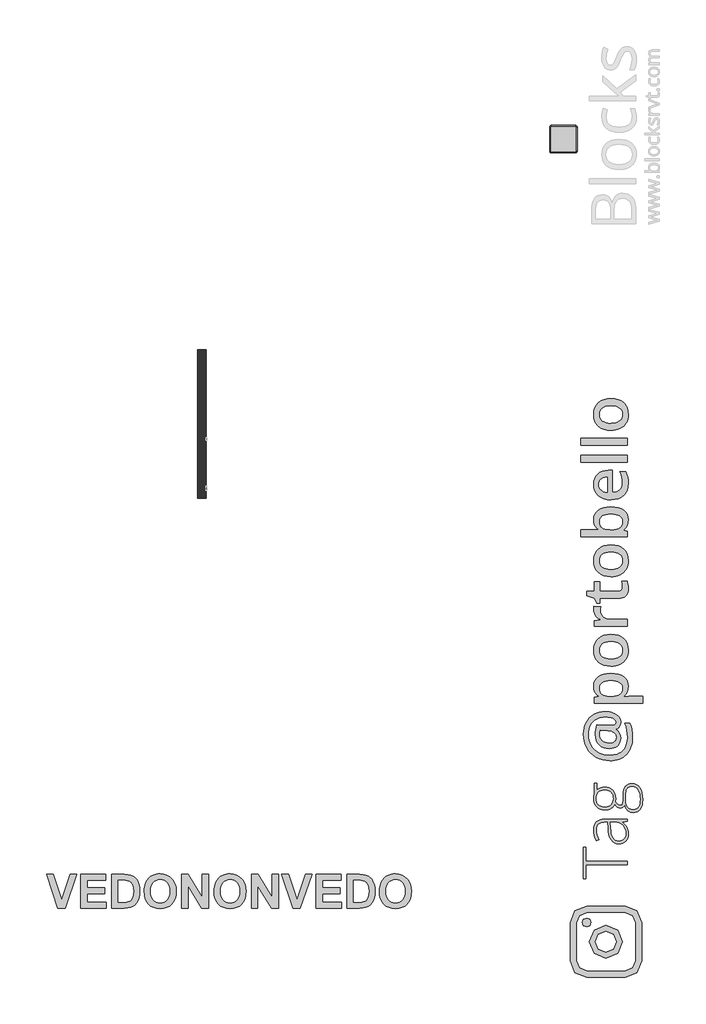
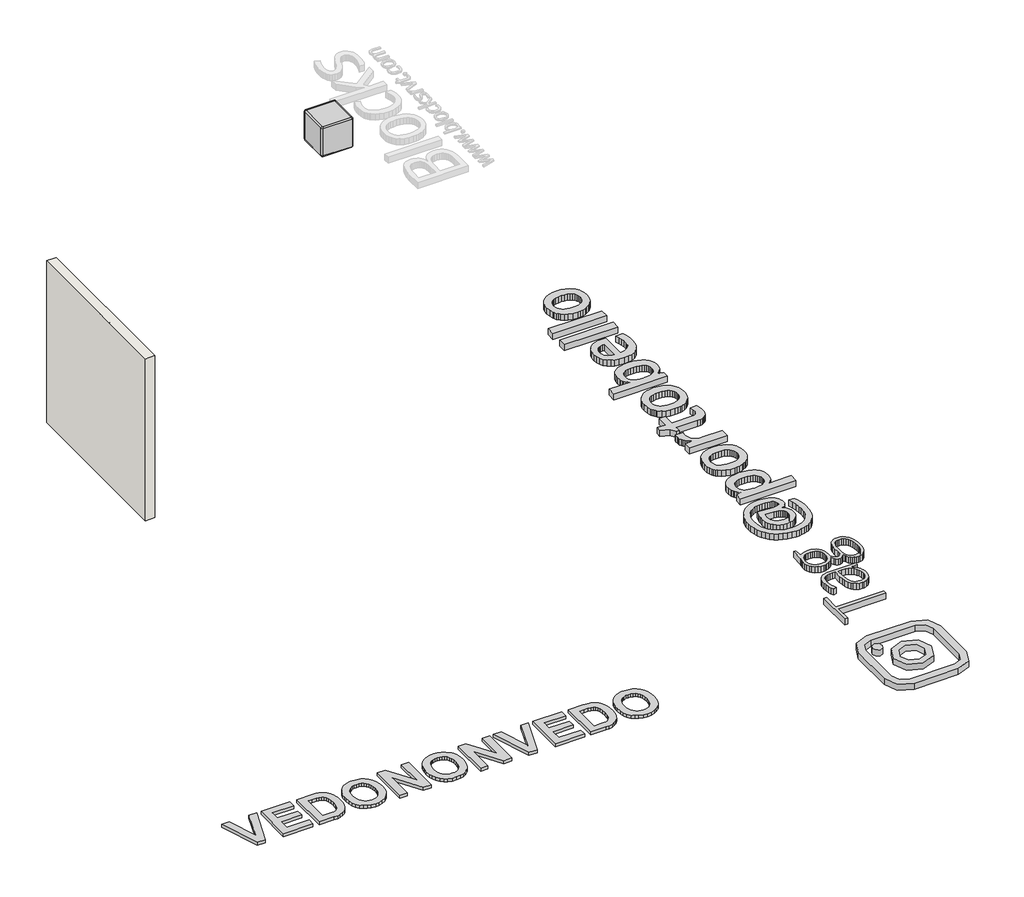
# One storey, part 1 of 3: 4 proxies, 1 furniture element, 1 wall.
"""IFC4 building model written with IfcOpenShell, lengths in millimetres."""

from ifc_helpers import new_model, si_unit, origin, origin_with_axes, place, context, project, spatial, polyline, outline, extrude, transform, mapped, element, save
from components import generic_models_d67f6705, branco_22256ad2

model = new_model("IFC4")

# Units and contexts
model_context = context("Model", 3, world=origin())
ifc_project = project(units=[si_unit("LENGTHUNIT", "METRE", prefix="MILLI")], contexts=[model_context])

# Site, building, storey
site = spatial("IfcSite", under=ifc_project)
building = spatial("IfcBuilding", under=site)
storey = spatial("IfcBuildingStorey", under=building, Name="PORTOBELLO - SHOWROOM", Elevation=0.0)

# Proxies
placement = place(None, origin())
generic_models_shape = generic_models_d67f6705(model_context)
element("IfcBuildingElementProxy", 1, Name="Blks_Instagram1 : Único 2", ObjectType="Blks_Instagram1 : Único 2", at=placement, inside=storey, context=model_context, shape_type="MappedRepresentation", body=[
    mapped(generic_models_shape, transform((-11509.6888804, 8122.5093702, 0.0), x_axis=(-1.0, 0.0, 0.0), y_axis=(0.0, -1.0, 0.0), z_axis=(0.0, 0.0, 1.0))),
])
element("IfcBuildingElementProxy", 2, Name="600mm Arial", ObjectType="600mm Arial", at=placement, inside=storey, context=model_context, shape_type="SweptSolid", body=[
    extrude(outline(polyline([(-21492.5482273, 8735.0497288), (-21698.877472, 9347.2053688), (-21575.8997765, 9347.2053688), (-21421.9499206, 8890.5178278), (-21267.5445918, 9347.2053688), (-21145.0223692, 9347.2053688), (-21362.2829647, 8735.0497288), (-21492.5482273, 8735.0497288)])), origin_with_axes(), (0.0, 0.0, 1.0), 50.0),
    extrude(outline(polyline([(-21077.0050759, 8735.0497288), (-21077.0050759, 9347.2053688), (-20620.317535, 9347.2053688), (-20620.317535, 9240.3210507), (-20960.4040016, 9240.3210507), (-20960.4040016, 9104.286464), (-20639.7510473, 9104.286464), (-20639.7510473, 8997.4021459), (-20960.4040016, 8997.4021459), (-20960.4040016, 8841.9340469), (-20610.6007788, 8841.9340469), (-20610.6007788, 8735.0497288), (-21077.0050759, 8735.0497288)])), origin_with_axes(), (0.0, 0.0, 1.0), 50.0),
    extrude(outline(polyline([(-20513.4332169, 9347.2053688), (-20286.7595139, 9347.2053688), (-20219.1976935, 9344.2827507), (-20169.854791, 9335.5148965), (-20143.7979428, 9326.0116432), (-20119.6768547, 9313.4434366), (-20097.4915266, 9297.8102766), (-20077.2419585, 9279.1121633), (-20059.1131863, 9257.7428909), (-20043.290246, 9234.0962538), (-20018.5618606, 9179.9708853), (-20009.7607948, 9148.9180683), (-20003.4743192, 9114.4397151), (-19998.4451388, 9035.2064005), (-20003.1516926, 8964.9117424), (-20017.2713539, 8904.9411378), (-20030.0435744, 8873.1339437), (-20045.2829401, 8844.5150603), (-20062.9894509, 8819.0844874), (-20083.1631068, 8796.8422252), (-20121.0432735, 8768.9824633), (-20170.3102639, 8747.9547956), (-20218.2487915, 8738.2759955), (-20280.079244, 8735.0497288), (-20513.4332169, 8735.0497288), (-20513.4332169, 9347.2053688)]), holes=[polyline([(-20396.8321426, 9240.3210507), (-20396.8321426, 8841.9340469), (-20297.5390403, 8841.9340469), (-20249.5625566, 8843.3763779), (-20217.0721531, 8847.7033709), (-20187.4853896, 8857.5909294), (-20163.4022575, 8872.6784708), (-20144.0256793, 8896.0404373), (-20128.5585771, 8930.7512714), (-20118.4243041, 8978.5000187), (-20115.0462131, 9040.9757245), (-20118.4243041, 9102.5784405), (-20128.5585771, 9148.0118669), (-20144.7468448, 9181.261392), (-20166.2869195, 9206.312404), (-20193.7860987, 9223.8481125), (-20227.8516795, 9234.5517267), (-20269.1099372, 9238.8787197), (-20337.0133623, 9240.3210507), (-20396.8321426, 9240.3210507)])]), origin_with_axes(), (0.0, 0.0, 1.0), 50.0),
    extrude(outline(polyline([(-19920.7110893, 9037.3319409), (-19918.9935767, 9082.139092), (-19913.841039, 9123.1885913), (-19905.2534761, 9160.4804388), (-19893.2308882, 9194.0146345), (-19868.9959318, 9238.2524444), (-19837.2836279, 9277.7457445), (-19800.1436047, 9310.0653456), (-19759.6254906, 9332.7820588), (-19730.4562439, 9343.3433378), (-19699.1235008, 9350.8871084), (-19665.6272612, 9355.4133708), (-19629.9675251, 9356.922125), (-19566.865544, 9351.6889306), (-19510.4058767, 9335.9893475), (-19460.5885232, 9309.8233756), (-19417.4134835, 9273.191015), (-19398.7319759, 9251.2369817), (-19382.541336, 9227.240437), (-19357.6326593, 9173.1198131), (-19342.6874532, 9110.8291431), (-19337.7057179, 9040.3684272), (-19342.6494971, 8970.3869068), (-19357.480835, 8908.4710532), (-19382.1997313, 8854.6208663), (-19398.2670139, 8830.7203978), (-19416.8061862, 8808.8363461), (-19459.6965553, 8772.3036202), (-19509.2671943, 8746.208816), (-19565.5181032, 8730.5519335), (-19628.449282, 8725.3329726), (-19692.0446921, 8730.5282109), (-19748.770052, 8746.1139258), (-19798.6253616, 8772.0901173), (-19841.6106209, 8808.4567853), (-19876.2170758, 8853.9329123), (-19900.9359722, 8907.2374806), (-19915.76731, 8968.3704901), (-19920.7110893, 9037.3319409)]), holes=[polyline([(-19804.110015, 9041.5830217), (-19801.01185, 8993.1605541), (-19791.7173552, 8950.9818615), (-19776.2265305, 8915.0469438), (-19754.539376, 8885.3558011), (-19728.0792445, 8862.1077028), (-19698.2694891, 8845.5019183), (-19665.1101097, 8835.5384476), (-19628.6011063, 8832.2172907), (-19592.130059, 8835.5147251), (-19559.0845479, 8845.4070281), (-19529.4645728, 8861.8941999), (-19503.2701339, 8884.9762403), (-19481.8486719, 8914.6531495), (-19466.5476276, 8950.9249274), (-19457.367001, 8993.7915739), (-19454.3067921, 9043.2530892), (-19457.2863443, 9092.0266506), (-19466.2250009, 9134.1958542), (-19481.1227619, 9169.7607001), (-19501.9796272, 9198.7211883), (-19527.7707828, 9221.1722089), (-19557.4714145, 9237.2086522), (-19591.0815223, 9246.8305182), (-19628.6011063, 9250.0378069), (-19666.1586463, 9246.7925621), (-19699.8826224, 9237.0568279), (-19729.7730345, 9220.8306042), (-19755.8298827, 9198.113891), (-19776.9524406, 9168.8592432), (-19792.0399819, 9133.0192157), (-19801.0925067, 9090.5938086), (-19804.110015, 9041.5830217)])]), origin_with_axes(), (0.0, 0.0, 1.0), 50.0),
    extrude(outline(polyline([(-19240.538156, 8735.0497288), (-19240.538156, 9347.2053688), (-19118.319582, 9347.2053688), (-18861.5846645, 8935.1541766), (-18861.5846645, 9347.2053688), (-18744.9835903, 9347.2053688), (-18744.9835903, 8735.0497288), (-18870.9977721, 8735.0497288), (-19123.9370817, 9141.0279484), (-19123.9370817, 8735.0497288), (-19240.538156, 8735.0497288)])), origin_with_axes(), (0.0, 0.0, 1.0), 50.0),
    extrude(outline(polyline([(-18647.8160284, 9037.3319409), (-18646.0985158, 9082.139092), (-18640.9459781, 9123.1885913), (-18632.3584152, 9160.4804388), (-18620.3358273, 9194.0146345), (-18596.1008709, 9238.2524444), (-18564.388567, 9277.7457445), (-18527.2485438, 9310.0653456), (-18486.7304297, 9332.7820588), (-18457.561183, 9343.3433378), (-18426.2284399, 9350.8871084), (-18392.7322003, 9355.4133708), (-18357.0724642, 9356.922125), (-18293.9704831, 9351.6889306), (-18237.5108158, 9335.9893475), (-18187.6934623, 9309.8233756), (-18144.5184226, 9273.191015), (-18125.836915, 9251.2369817), (-18109.6462751, 9227.240437), (-18084.7375984, 9173.1198131), (-18069.7923923, 9110.8291431), (-18064.810657, 9040.3684272), (-18069.7544362, 8970.3869068), (-18084.5857741, 8908.4710532), (-18109.3046704, 8854.6208663), (-18125.3719531, 8830.7203978), (-18143.9111253, 8808.8363461), (-18186.8014944, 8772.3036202), (-18236.3721334, 8746.208816), (-18292.6230423, 8730.5519335), (-18355.5542211, 8725.3329726), (-18419.1496312, 8730.5282109), (-18475.8749911, 8746.1139258), (-18525.7303007, 8772.0901173), (-18568.71556, 8808.4567853), (-18603.3220149, 8853.9329123), (-18628.0409113, 8907.2374806), (-18642.8722491, 8968.3704901), (-18647.8160284, 9037.3319409)]), holes=[polyline([(-18531.2149541, 9041.5830217), (-18528.1167891, 8993.1605541), (-18518.8222943, 8950.9818615), (-18503.3314696, 8915.0469438), (-18481.6443151, 8885.3558011), (-18455.1841836, 8862.1077028), (-18425.3744282, 8845.5019183), (-18392.2150488, 8835.5384476), (-18355.7060454, 8832.2172907), (-18319.2349981, 8835.5147251), (-18286.189487, 8845.4070281), (-18256.5695119, 8861.8941999), (-18230.375073, 8884.9762403), (-18208.953611, 8914.6531495), (-18193.6525667, 8950.9249274), (-18184.4719401, 8993.7915739), (-18181.4117312, 9043.2530892), (-18184.3912834, 9092.0266506), (-18193.32994, 9134.1958542), (-18208.227701, 9169.7607001), (-18229.0845663, 9198.7211883), (-18254.8757219, 9221.1722089), (-18284.5763536, 9237.2086522), (-18318.1864614, 9246.8305182), (-18355.7060454, 9250.0378069), (-18393.2635854, 9246.7925621), (-18426.9875615, 9237.0568279), (-18456.8779736, 9220.8306042), (-18482.9348218, 9198.113891), (-18504.0573797, 9168.8592432), (-18519.144921, 9133.0192157), (-18528.1974458, 9090.5938086), (-18531.2149541, 9041.5830217)])]), origin_with_axes(), (0.0, 0.0, 1.0), 50.0),
    extrude(outline(polyline([(-17967.6430951, 8735.0497288), (-17967.6430951, 9347.2053688), (-17845.4245211, 9347.2053688), (-17588.6896036, 8935.1541766), (-17588.6896036, 9347.2053688), (-17472.0885294, 9347.2053688), (-17472.0885294, 8735.0497288), (-17598.1027112, 8735.0497288), (-17851.0420208, 9141.0279484), (-17851.0420208, 8735.0497288), (-17967.6430951, 8735.0497288)])), origin_with_axes(), (0.0, 0.0, 1.0), 50.0),
    extrude(outline(polyline([(-17207.4587475, 8735.0497288), (-17413.7879922, 9347.2053688), (-17290.8102967, 9347.2053688), (-17136.8604408, 8890.5178278), (-16982.455112, 9347.2053688), (-16859.9328894, 9347.2053688), (-17077.1934848, 8735.0497288), (-17207.4587475, 8735.0497288)])), origin_with_axes(), (0.0, 0.0, 1.0), 50.0),
    extrude(outline(polyline([(-16791.9155961, 8735.0497288), (-16791.9155961, 9347.2053688), (-16335.2280551, 9347.2053688), (-16335.2280551, 9240.3210507), (-16675.3145218, 9240.3210507), (-16675.3145218, 9104.286464), (-16354.6615675, 9104.286464), (-16354.6615675, 8997.4021459), (-16675.3145218, 8997.4021459), (-16675.3145218, 8841.9340469), (-16325.5112989, 8841.9340469), (-16325.5112989, 8735.0497288), (-16791.9155961, 8735.0497288)])), origin_with_axes(), (0.0, 0.0, 1.0), 50.0),
    extrude(outline(polyline([(-16228.343737, 9347.2053688), (-16001.670034, 9347.2053688), (-15934.1082137, 9344.2827507), (-15884.7653111, 9335.5148965), (-15858.708463, 9326.0116432), (-15834.5873749, 9313.4434366), (-15812.4020468, 9297.8102766), (-15792.1524787, 9279.1121633), (-15774.0237065, 9257.7428909), (-15758.2007661, 9234.0962538), (-15733.4723808, 9179.9708853), (-15724.671315, 9148.9180683), (-15718.3848394, 9114.4397151), (-15713.355659, 9035.2064005), (-15718.0622127, 8964.9117424), (-15732.1818741, 8904.9411378), (-15744.9540946, 8873.1339437), (-15760.1934603, 8844.5150603), (-15777.8999711, 8819.0844874), (-15798.073627, 8796.8422252), (-15835.9537937, 8768.9824633), (-15885.2207841, 8747.9547956), (-15933.1593117, 8738.2759955), (-15994.9897642, 8735.0497288), (-16228.343737, 8735.0497288), (-16228.343737, 9347.2053688)]), holes=[polyline([(-16111.7426628, 9240.3210507), (-16111.7426628, 8841.9340469), (-16012.4495604, 8841.9340469), (-15964.4730768, 8843.3763779), (-15931.9826732, 8847.7033709), (-15902.3959098, 8857.5909294), (-15878.3127777, 8872.6784708), (-15858.9361995, 8896.0404373), (-15843.4690973, 8930.7512714), (-15833.3348243, 8978.5000187), (-15829.9567332, 9040.9757245), (-15833.3348243, 9102.5784405), (-15843.4690973, 9148.0118669), (-15859.657365, 9181.261392), (-15881.1974397, 9206.312404), (-15908.6966189, 9223.8481125), (-15942.7621996, 9234.5517267), (-15984.0204574, 9238.8787197), (-16051.9238825, 9240.3210507), (-16111.7426628, 9240.3210507)])]), origin_with_axes(), (0.0, 0.0, 1.0), 50.0),
    extrude(outline(polyline([(-15635.6216094, 9037.3319409), (-15633.9040969, 9082.139092), (-15628.7515592, 9123.1885913), (-15620.1639963, 9160.4804388), (-15608.1414083, 9194.0146345), (-15583.906452, 9238.2524444), (-15552.1941481, 9277.7457445), (-15515.0541249, 9310.0653456), (-15474.5360107, 9332.7820588), (-15445.3667641, 9343.3433378), (-15414.034021, 9350.8871084), (-15380.5377814, 9355.4133708), (-15344.8780453, 9356.922125), (-15281.7760642, 9351.6889306), (-15225.3163969, 9335.9893475), (-15175.4990434, 9309.8233756), (-15132.3240037, 9273.191015), (-15113.6424961, 9251.2369817), (-15097.4518562, 9227.240437), (-15072.5431794, 9173.1198131), (-15057.5979734, 9110.8291431), (-15052.616238, 9040.3684272), (-15057.5600173, 8970.3869068), (-15072.3913551, 8908.4710532), (-15097.1102515, 8854.6208663), (-15113.1775341, 8830.7203978), (-15131.7167064, 8808.8363461), (-15174.6070755, 8772.3036202), (-15224.1777145, 8746.208816), (-15280.4286234, 8730.5519335), (-15343.3598022, 8725.3329726), (-15406.9552123, 8730.5282109), (-15463.6805722, 8746.1139258), (-15513.5358818, 8772.0901173), (-15556.5211411, 8808.4567853), (-15591.127596, 8853.9329123), (-15615.8464924, 8907.2374806), (-15630.6778302, 8968.3704901), (-15635.6216094, 9037.3319409)]), holes=[polyline([(-15519.0205352, 9041.5830217), (-15515.9223702, 8993.1605541), (-15506.6278754, 8950.9818615), (-15491.1370507, 8915.0469438), (-15469.4498962, 8885.3558011), (-15442.9897647, 8862.1077028), (-15413.1800092, 8845.5019183), (-15380.0206298, 8835.5384476), (-15343.5116265, 8832.2172907), (-15307.0405792, 8835.5147251), (-15273.995068, 8845.4070281), (-15244.375093, 8861.8941999), (-15218.1806541, 8884.9762403), (-15196.7591921, 8914.6531495), (-15181.4581478, 8950.9249274), (-15172.2775212, 8993.7915739), (-15169.2173123, 9043.2530892), (-15172.1968645, 9092.0266506), (-15181.1355211, 9134.1958542), (-15196.033282, 9169.7607001), (-15216.8901474, 9198.7211883), (-15242.681303, 9221.1722089), (-15272.3819347, 9237.2086522), (-15305.9920425, 9246.8305182), (-15343.5116265, 9250.0378069), (-15381.0691665, 9246.7925621), (-15414.7931426, 9237.0568279), (-15444.6835547, 9220.8306042), (-15470.7404028, 9198.113891), (-15491.8629607, 9168.8592432), (-15506.9505021, 9133.0192157), (-15516.0030269, 9090.5938086), (-15519.0205352, 9041.5830217)])]), origin_with_axes(), (0.0, 0.0, 1.0), 50.0),
])
element("IfcBuildingElementProxy", 3, Name="80mm OpenSans Bold", ObjectType="80mm OpenSans Bold", at=placement, inside=storey, context=model_context, shape_type="SweptSolid", body=[
    extrude(outline(polyline([(-11519.8688205, 12310.0949726), (-11481.7632058, 12308.5476127), (-11445.3251343, 12303.9055331), (-11410.554606, 12296.1687338), (-11377.4516208, 12285.3372147), (-11346.9701336, 12271.6964112), (-11320.0640993, 12255.5317585), (-11296.733518, 12236.8432568), (-11276.9783896, 12215.630906), (-11261.2569128, 12192.2853017), (-11250.0272866, 12167.1970397), (-11243.2895108, 12140.36612), (-11241.0435856, 12111.7925426), (-11246.7522919, 12071.1705903), (-11253.8881748, 12053.0229133), (-11263.8784108, 12036.3174359), (-11276.3023585, 12021.6400515), (-11290.7393764, 12009.5766537), (-11307.1894643, 12000.1272424), (-11325.6526224, 11993.2918178), (-11325.6526224, 11986.5615535), (-11288.6361688, 11956.3955474), (-11262.1958448, 11919.7396437), (-11246.3316504, 11877.3750337), (-11241.0435856, 11830.0829087), (-11244.5965041, 11787.4178404), (-11255.2552597, 11749.5601038), (-11273.0198524, 11716.5096988), (-11297.8902822, 11688.2666254), (-11328.8299681, 11665.6571438), (-11364.8023294, 11649.5075141), (-11405.807366, 11639.8177363), (-11451.8450778, 11636.5878103), (-11504.9886268, 11640.8693401), (-11552.8891797, 11653.7139293), (-11595.5467365, 11675.121578), (-11632.9612972, 11705.0922861), (-11663.4052271, 11742.2739918), (-11685.1508913, 11785.3146328), (-11698.1982898, 11834.2142093), (-11702.5474227, 11888.9727212), (-11700.7146275, 11933.2903098), (-11695.2162419, 11982.1147717), (-11686.4729075, 12030.3383172), (-11674.9052658, 12072.8531563), (-11423.7221878, 12060.5944607), (-11410.9827589, 12060.5944607), (-11373.1250223, 12064.1999594), (-11346.0837818, 12075.0164556), (-11336.6193477, 12083.1288277), (-11329.8590376, 12093.0439492), (-11324.4507895, 12118.2824403), (-11327.9135705, 12139.0365924), (-11338.3019137, 12157.5523306), (-11355.6158191, 12173.8296551), (-11379.8552866, 12187.8685658), (-11409.4579334, 12199.1733066), (-11442.8613768, 12207.2481214), (-11480.0656168, 12212.0930103), (-11521.0706534, 12213.7079733), (-11566.1619219, 12211.2892846), (-11608.4138601, 12204.0332184), (-11647.826468, 12191.9397747), (-11684.3997458, 12175.0089536), (-11717.5402882, 12153.6163278), (-11746.6546905, 12128.1374702), (-11771.7429524, 12098.5723806), (-11792.8050742, 12064.9210591), (-11809.4729943, 12027.9196285), (-11821.3786516, 11988.3042112), (-11828.5220459, 11946.0748073), (-11830.9031774, 11901.2314169), (-11827.913618, 11844.2570256), (-11818.9449399, 11791.1134766), (-11803.9971431, 11741.8007701), (-11783.0702276, 11696.3189059), (-11756.5923463, 11655.3288922), (-11724.9916523, 11619.4917372), (-11688.2681454, 11588.8074407), (-11646.4218258, 11563.2760029), (-11600.2338848, 11543.1903704), (-11550.4855139, 11528.84349), (-11497.1767129, 11520.2353618), (-11440.3074819, 11517.3659857), (-11366.131857, 11522.7216536), (-11301.0450936, 11538.7886573), (-11271.9100348, 11550.8389101), (-11245.0471915, 11565.5669968), (-11220.4565634, 11582.9729175), (-11198.1381507, 11603.0566722), (-11178.2797398, 11625.6417415), (-11161.0691169, 11650.5516064), (-11146.5062822, 11677.7862669), (-11134.5912356, 11707.3457228), (-11118.7045069, 11773.4390214), (-11113.4089306, 11848.8315021), (-11116.5036504, 11910.545622), (-11125.7878096, 11973.581758), (-11141.2614083, 12037.9399103), (-11162.9244465, 12103.6200788), (-11072.7869783, 12103.6200788), (-11052.1755439, 12044.3997622), (-11037.4530908, 11982.5955049), (-11028.6196189, 11918.2073068), (-11025.6751283, 11851.2351679), (-11027.3708394, 11801.6201253), (-11032.4579727, 11754.8106113), (-11040.9365283, 11710.8066261), (-11052.8065062, 11669.6081695), (-11068.0679063, 11631.2152416), (-11086.7207286, 11595.6278425), (-11108.7649731, 11562.845972), (-11134.2006399, 11532.8696303), (-11162.6709348, 11506.0819014), (-11193.8190637, 11482.8658698), (-11227.6450265, 11463.2215353), (-11264.1488233, 11447.148898), (-11303.330454, 11434.6479579), (-11345.1899186, 11425.718715), (-11389.7272172, 11420.3611692), (-11436.9423498, 11418.5753206), (-11506.0101848, 11422.4362088), (-11571.1570399, 11434.0188735), (-11632.3829152, 11453.3233146), (-11689.6878106, 11480.3495321), (-11741.7872672, 11514.2261973), (-11787.3968261, 11554.0819811), (-11826.5164873, 11599.9168837), (-11859.1462507, 11651.730905), (-11884.8579635, 11708.3522579), (-11903.2234727, 11768.6091554), (-11914.2427782, 11832.5015974), (-11917.91588, 11900.029584), (-11914.8512061, 11958.250877), (-11905.6571843, 12013.2121982), (-11890.3338147, 12064.9135477), (-11868.8810973, 12113.3549254), (-11841.7647423, 12157.5373077), (-11809.45046, 12196.4616711), (-11771.9382503, 12230.1280154), (-11729.2281133, 12258.5363408), (-11682.161332, 12281.0932422), (-11631.5791894, 12297.2053147), (-11577.4816856, 12306.8725581), (-11519.8688205, 12310.0949726)]), holes=[polyline([(-11449.9221452, 11741.8683732), (-11420.5147962, 11743.457046), (-11395.0284271, 11748.2230647), (-11373.4630378, 11756.1664291), (-11355.8186284, 11767.2871392), (-11342.0951989, 11781.5851951), (-11332.2927492, 11799.0605967), (-11326.4112794, 11819.7133441), (-11324.4507895, 11843.5434373), (-11326.9145469, 11868.8269971), (-11334.3058193, 11891.0759288), (-11346.6246066, 11910.2902325), (-11363.8709089, 11926.469908), (-11386.0447261, 11939.6149555), (-11413.1460582, 11949.7253748), (-11445.1749052, 11956.8011661), (-11482.1312671, 11960.8423292), (-11610.7273884, 11967.5725935), (-11617.577836, 11931.2772396), (-11619.8613185, 11892.57822), (-11616.9994539, 11858.9644558), (-11608.4138601, 11829.2716715), (-11594.104537, 11803.499867), (-11574.0714847, 11781.6490425), (-11549.1409633, 11764.2449996), (-11520.1392329, 11751.8135405), (-11487.0662935, 11744.354665), (-11449.9221452, 11741.8683732)])]), origin_with_axes(), (0.0, 0.0, 1.0), 100.0),
    extrude(outline(polyline([(-11102.5924344, 12768.7144107), (-11107.7903618, 12715.1577317), (-11123.3841438, 12667.9407213), (-11149.3737804, 12627.0633795), (-11185.7592718, 12592.5257063), (-11185.7592718, 12584.8339756), (-11091.7759383, 12592.5257063), (-10841.0735934, 12592.5257063), (-10841.0735934, 12463.6892184), (-11717.9308839, 12463.6892184), (-11717.9308839, 12568.0083149), (-11640.7732112, 12586.0358086), (-11640.7732112, 12592.5257063), (-11662.4625394, 12608.3560991), (-11681.2599573, 12626.0418215), (-11697.1654647, 12645.5828735), (-11710.1790617, 12666.979255), (-11720.3007482, 12690.230966), (-11727.5305243, 12715.3380067), (-11733.3143452, 12771.1180766), (-11728.1539751, 12823.92361), (-11712.6728649, 12870.5697498), (-11686.8710147, 12911.0564959), (-11650.7484243, 12945.3838484), (-11605.3116289, 12972.7255471), (-11551.5671635, 12992.2553318), (-11489.5150281, 13003.9732027), (-11419.1552227, 13007.8791597), (-11348.6226539, 13003.9055996), (-11286.2925946, 12991.9849194), (-11232.165045, 12972.1171192), (-11186.2400049, 12944.3021988), (-11149.6441928, 12909.4866017), (-11123.5043271, 12868.6167713), (-11107.8204076, 12821.6927077), (-11102.5924344, 12768.7144107)]), holes=[polyline([(-11625.6301165, 12737.2263885), (-11622.835855, 12702.140379), (-11614.4530704, 12672.1170907), (-11600.4817629, 12647.1565234), (-11580.9219323, 12627.2586773), (-11555.2327538, 12612.0630025), (-11522.8734028, 12601.208949), (-11483.843879, 12594.696517), (-11438.1441827, 12592.5257063), (-11419.1552227, 12592.5257063), (-11367.8069117, 12594.6739826), (-11324.0902396, 12601.1188116), (-11288.0052065, 12611.8601932), (-11259.5518124, 12626.8981275), (-11237.9939346, 12646.8185079), (-11222.5954504, 12672.2072281), (-11213.3563599, 12703.0642881), (-11210.2766631, 12739.3896878), (-11213.686864, 12770.3143508), (-11223.9174666, 12797.4682631), (-11240.968471, 12820.8514246), (-11264.8398772, 12840.4638354), (-11295.0058832, 12855.9749914), (-11330.9406872, 12867.0543885), (-11372.6442891, 12873.7020268), (-11420.116689, 12875.9179062), (-11467.7468295, 12873.7170497), (-11509.2025534, 12867.1144802), (-11544.4838608, 12856.1101976), (-11573.5907515, 12840.704202), (-11596.3579737, 12821.0316996), (-11612.6202753, 12797.2278965), (-11622.3776562, 12769.2927928), (-11625.6301165, 12737.2263885)])]), origin_with_axes(), (0.0, 0.0, 1.0), 100.0),
    extrude(outline(polyline([(-11419.1552227, 13715.9991097), (-11348.6226539, 13711.1917781), (-11286.2925946, 13696.7697832), (-11232.165045, 13672.733125), (-11186.2400049, 13639.0818036), (-11166.6351056, 13618.9097893), (-11149.6441928, 13596.8523997), (-11135.2672667, 13572.9096347), (-11123.5043271, 13547.0814944), (-11107.8204076, 13489.7690875), (-11102.5924344, 13424.9151791), (-11105.0036117, 13383.2641574), (-11112.2371435, 13344.1219618), (-11124.2930299, 13307.4885925), (-11141.1712708, 13273.3640493), (-11162.5488737, 13242.3868061), (-11188.1028459, 13215.1953365), (-11217.8331875, 13191.7896406), (-11251.7398985, 13172.1697183), (-11289.199528, 13156.6585624), (-11329.5886252, 13145.5791652), (-11372.9071901, 13138.931527), (-11419.1552227, 13136.7156475), (-11489.1244324, 13141.4854219), (-11550.966247, 13155.794745), (-11604.6806666, 13179.6436167), (-11650.2676911, 13213.0320373), (-11669.7317507, 13233.0895018), (-11686.6006023, 13255.1037005), (-11700.8742459, 13279.0746335), (-11712.5526817, 13305.0023006), (-11728.1239293, 13362.7278375), (-11733.3143452, 13428.2803113), (-11727.9962345, 13491.1737297), (-11712.0419027, 13547.1716318), (-11685.4513496, 13596.2740176), (-11648.2245752, 13638.4808871), (-11601.9990769, 13672.3951095), (-11548.4123521, 13696.6195541), (-11487.4644007, 13711.1542208), (-11419.1552227, 13715.9991097)]), holes=[polyline([(-11419.1552227, 13269.3980007), (-11370.1993103, 13271.8617582), (-11327.7708529, 13279.2530306), (-11291.8698504, 13291.5718179), (-11262.496303, 13308.8181201), (-11239.6502105, 13330.9919373), (-11223.3315731, 13358.0932694), (-11213.5403906, 13390.1221164), (-11210.2766631, 13427.0784784), (-11213.5403906, 13463.6968248), (-11223.3315731, 13495.4327251), (-11239.6502105, 13522.2861791), (-11262.496303, 13544.257187), (-11291.8698504, 13561.3457487), (-11327.7708529, 13573.5518642), (-11370.1993103, 13580.8755335), (-11419.1552227, 13583.3167566), (-11467.5477759, 13580.8605106), (-11509.4879887, 13573.4917725), (-11544.9758611, 13561.2105425), (-11574.0113931, 13544.0168204), (-11596.5945846, 13521.9106064), (-11612.7254356, 13494.8919003), (-11622.4039463, 13462.9607022), (-11625.6301165, 13426.117012), (-11622.2950302, 13387.7259621), (-11612.2897712, 13354.9985496), (-11595.6143396, 13327.9347748), (-11572.2687353, 13306.5346376), (-11542.6886229, 13290.2873589), (-11507.3096666, 13278.6821599), (-11466.1318665, 13271.7190405), (-11419.1552227, 13269.3980007)])]), origin_with_axes(), (0.0, 0.0, 1.0), 100.0),
    extrude(outline(polyline([(-11733.3143452, 14166.6864507), (-11731.9322373, 14201.3593301), (-11727.7859138, 14229.4221285), (-11607.6026229, 14217.1634329), (-11612.6503211, 14189.7616425), (-11614.3328872, 14161.3983859), (-11611.1930987, 14125.3433986), (-11601.7737333, 14092.89391), (-11586.0747909, 14064.0499202), (-11564.0962716, 14038.8114291), (-11537.1000998, 14018.3051551), (-11506.3482003, 14003.6578165), (-11471.8405729, 13994.8694134), (-11433.5772176, 13991.9399457), (-11117.9758957, 13991.9399457), (-11117.9758957, 13863.1034578), (-11717.9308839, 13863.1034578), (-11717.9308839, 13964.0574222), (-11615.7750866, 13981.1234495), (-11615.7750866, 13987.6133472), (-11641.4191963, 14003.4099385), (-11664.2690445, 14021.4749894), (-11684.3246312, 14041.8085), (-11701.5859564, 14064.4104701), (-11715.4671265, 14088.6048689), (-11725.382248, 14113.7156652), (-11731.3313209, 14139.7428591), (-11733.3143452, 14166.6864507)])), origin_with_axes(), (0.0, 0.0, 1.0), 100.0),
    extrude(outline(polyline([(-11210.2766631, 14585.6454028), (-11213.9422535, 14633.5384442), (-11224.9390246, 14681.5516689), (-11125.1868931, 14681.5516689), (-11116.3534212, 14656.793911), (-11109.0823321, 14625.786622), (-11104.2149089, 14591.0536509), (-11102.5924344, 14555.1188469), (-11105.6270625, 14511.7401903), (-11114.7309468, 14474.1453547), (-11129.9040873, 14442.3343398), (-11151.146484, 14416.3071459), (-11178.4581368, 14396.0637728), (-11211.8390459, 14381.6042206), (-11251.2892111, 14372.9284893), (-11296.8086326, 14370.0365789), (-11625.6301165, 14370.0365789), (-11625.6301165, 14286.3890084), (-11679.7125974, 14286.3890084), (-11724.4207816, 14376.0457434), (-11856.3820351, 14420.0328279), (-11856.3820351, 14499.5941665), (-11717.9308839, 14499.5941665), (-11717.9308839, 14675.3021378), (-11625.6301165, 14675.3021378), (-11625.6301165, 14499.5941665), (-11301.135231, 14499.5941665), (-11279.4496585, 14501.0739233), (-11260.7836911, 14505.5131936), (-11245.1373289, 14512.9119774), (-11232.5105719, 14523.2702748), (-11222.7832368, 14536.0472609), (-11215.8351403, 14550.702111), (-11210.2766631, 14585.6454028)])), origin_with_axes(), (0.0, 0.0, 1.0), 100.0),
    extrude(outline(polyline([(-11419.1552227, 15346.6460009), (-11348.6226539, 15341.8386692), (-11286.2925946, 15327.4166743), (-11232.165045, 15303.3800161), (-11186.2400049, 15269.7286947), (-11166.6351056, 15249.5566805), (-11149.6441928, 15227.4992908), (-11135.2672667, 15203.5565259), (-11123.5043271, 15177.7283855), (-11107.8204076, 15120.4159786), (-11102.5924344, 15055.5620703), (-11105.0036117, 15013.9110485), (-11112.2371435, 14974.768853), (-11124.2930299, 14938.1354836), (-11141.1712708, 14904.0109404), (-11162.5488737, 14873.0336972), (-11188.1028459, 14845.8422276), (-11217.8331875, 14822.4365317), (-11251.7398985, 14802.8166095), (-11289.199528, 14787.3054535), (-11329.5886252, 14776.2260564), (-11372.9071901, 14769.5784181), (-11419.1552227, 14767.3625387), (-11489.1244324, 14772.132313), (-11550.966247, 14786.4416361), (-11604.6806666, 14810.2905079), (-11650.2676911, 14843.6789284), (-11669.7317507, 14863.7363929), (-11686.6006023, 14885.7505917), (-11700.8742459, 14909.7215246), (-11712.5526817, 14935.6491918), (-11728.1239293, 14993.3747287), (-11733.3143452, 15058.9272024), (-11727.9962345, 15121.8206208), (-11712.0419027, 15177.818523), (-11685.4513496, 15226.9209088), (-11648.2245752, 15269.1277782), (-11601.9990769, 15303.0420006), (-11548.4123521, 15327.2664452), (-11487.4644007, 15341.801112), (-11419.1552227, 15346.6460009)]), holes=[polyline([(-11419.1552227, 14900.0448918), (-11370.1993103, 14902.5086493), (-11327.7708529, 14909.8999217), (-11291.8698504, 14922.218709), (-11262.496303, 14939.4650113), (-11239.6502105, 14961.6388284), (-11223.3315731, 14988.7401605), (-11213.5403906, 15020.7690076), (-11210.2766631, 15057.7253695), (-11213.5403906, 15094.343716), (-11223.3315731, 15126.0796162), (-11239.6502105, 15152.9330703), (-11262.496303, 15174.9040782), (-11291.8698504, 15191.9926398), (-11327.7708529, 15204.1987553), (-11370.1993103, 15211.5224246), (-11419.1552227, 15213.9636477), (-11467.5477759, 15211.5074017), (-11509.4879887, 15204.1386637), (-11544.9758611, 15191.8574336), (-11574.0113931, 15174.6637116), (-11596.5945846, 15152.5574975), (-11612.7254356, 15125.5387914), (-11622.4039463, 15093.6075933), (-11625.6301165, 15056.7639032), (-11622.2950302, 15018.3728532), (-11612.2897712, 14985.6454408), (-11595.6143396, 14958.581666), (-11572.2687353, 14937.1815287), (-11542.6886229, 14920.9342501), (-11507.3096666, 14909.3290511), (-11466.1318665, 14902.3659316), (-11419.1552227, 14900.0448918)])]), origin_with_axes(), (0.0, 0.0, 1.0), 100.0),
    extrude(outline(polyline([(-11733.3143452, 15801.6599403), (-11728.1539751, 15854.4654737), (-11712.6728649, 15901.1116135), (-11686.8710147, 15941.5983596), (-11650.7484243, 15975.9257121), (-11605.3116289, 16003.2674108), (-11551.5671635, 16022.7971956), (-11489.5150281, 16034.5150664), (-11419.1552227, 16038.4210234), (-11348.427356, 16034.4699977), (-11285.9921364, 16022.6169206), (-11231.8495638, 16002.8617922), (-11185.9996383, 15975.2046124), (-11149.5089866, 15940.51671), (-11123.4442354, 15899.669414), (-11107.8053847, 15852.6627244), (-11102.5924344, 15799.496641), (-11107.7903618, 15745.8348016), (-11123.3841438, 15698.5426767), (-11149.3737804, 15657.6202661), (-11185.7592718, 15623.06757), (-11185.7592718, 15614.414373), (-11117.9758957, 15590.858448), (-11117.9758957, 15494.2310821), (-11964.0662637, 15494.2310821), (-11964.0662637, 15623.06757), (-11764.0812676, 15623.06757), (-11698.1006409, 15620.9042707), (-11642.4557772, 15617.7795052), (-11642.4557772, 15623.06757), (-11663.7507541, 15639.1082836), (-11682.2064007, 15656.9442351), (-11697.8227171, 15676.5754245), (-11710.5997032, 15698.0018519), (-11720.537359, 15721.2235171), (-11727.6356847, 15746.2404203), (-11733.3143452, 15801.6599403)]), holes=[polyline([(-11625.6301165, 15767.7682522), (-11622.7832748, 15732.224044), (-11614.2427497, 15702.0279921), (-11600.0085412, 15677.1800967), (-11580.0806492, 15657.6803578), (-11553.4825847, 15642.897813), (-11519.2378582, 15632.2015001), (-11477.3464699, 15625.5914191), (-11427.8084197, 15623.06757), (-11419.1552227, 15623.06757), (-11367.8069117, 15625.2158463), (-11324.0902396, 15631.6606753), (-11288.0052065, 15642.4020569), (-11259.5518124, 15657.4399912), (-11237.9939346, 15677.3603716), (-11222.5954504, 15702.7490919), (-11213.3563599, 15733.6061518), (-11210.2766631, 15769.9315515), (-11213.6493067, 15801.4421081), (-11223.7672375, 15828.9115015), (-11240.6304555, 15852.3397318), (-11264.2389607, 15871.7267989), (-11294.2171803, 15886.9224737), (-11330.1895416, 15897.7765272), (-11372.1560445, 15904.2889593), (-11420.116689, 15906.45977), (-11468.2838986, 15904.292715), (-11510.0288136, 15897.7915501), (-11545.3514339, 15886.9562753), (-11574.2517596, 15871.7868905), (-11596.7297908, 15852.2833958), (-11612.7855273, 15828.4457912), (-11622.4189692, 15800.2740767), (-11625.6301165, 15767.7682522)])]), origin_with_axes(), (0.0, 0.0, 1.0), 100.0),
    extrude(outline(polyline([(-11102.5924344, 16467.2350054), (-11107.7678274, 16400.4206071), (-11123.2940063, 16341.3129623), (-11134.9386405, 16314.6491725), (-11149.1709711, 16289.9120711), (-11165.9909983, 16267.101658), (-11185.3987219, 16246.2179334), (-11230.715334, 16211.3572676), (-11283.858883, 16186.456792), (-11344.8293687, 16171.5165066), (-11413.6267913, 16166.5364115), (-11484.1593602, 16171.1559567), (-11546.729786, 16185.0145925), (-11601.3380688, 16208.1123187), (-11647.9842086, 16240.4491354), (-11685.3161434, 16280.8682784), (-11711.981811, 16328.2129836), (-11727.9812116, 16382.4832509), (-11733.3143452, 16443.6790803), (-11728.8224947, 16500.3980822), (-11715.3469432, 16550.85253), (-11692.8876907, 16595.0424238), (-11661.4447372, 16632.9677635), (-11622.1297782, 16663.4116934), (-11576.054509, 16685.1573576), (-11523.2189297, 16698.2047561), (-11463.6230403, 16702.553889), (-11394.8781979, 16702.553889), (-11394.8781979, 16299.2187647), (-11352.9792981, 16303.1848133), (-11316.218234, 16312.4389267), (-11284.5950056, 16326.9811049), (-11258.1096129, 16346.8113479), (-11237.1826974, 16371.5691058), (-11222.2349005, 16400.8938288), (-11213.2662225, 16434.7855168), (-11210.2766631, 16473.2441699), (-11212.8005122, 16525.0131225), (-11220.3720595, 16573.1164847), (-11233.8325881, 16621.0996636), (-11254.023381, 16672.5080662), (-11146.0987857, 16672.5080662), (-11125.7878096, 16625.1258038), (-11112.4474643, 16577.2027166), (-11105.0561919, 16525.6140389), (-11102.5924344, 16467.2350054)]), holes=[polyline([(-11641.0135777, 16443.4387138), (-11638.5573317, 16414.4219605), (-11631.1885937, 16388.4248123), (-11618.9073637, 16365.4472694), (-11601.7136416, 16345.4893317), (-11579.8177483, 16328.8965261), (-11553.4300045, 16316.0143796), (-11522.5504102, 16306.8428922), (-11487.1789654, 16301.3820639), (-11487.1789654, 16575.8807004), (-11522.745708, 16573.1690649), (-11553.7304627, 16566.2359913), (-11580.1332294, 16555.0814796), (-11601.9540082, 16539.7055298), (-11619.0425699, 16520.5738522), (-11631.2486854, 16498.152157), (-11638.5723546, 16472.4404442), (-11641.0135777, 16443.4387138)])]), origin_with_axes(), (0.0, 0.0, 1.0), 100.0),
    extrude(outline(polyline([(-11117.9758957, 16976.3314257), (-11117.9758957, 16847.4949378), (-11964.0662637, 16847.4949378), (-11964.0662637, 16976.3314257), (-11117.9758957, 16976.3314257)])), origin_with_axes(), (0.0, 0.0, 1.0), 100.0),
    extrude(outline(polyline([(-11117.9758957, 17284.0006504), (-11117.9758957, 17155.1641626), (-11964.0662637, 17155.1641626), (-11964.0662637, 17284.0006504), (-11117.9758957, 17284.0006504)])), origin_with_axes(), (0.0, 0.0, 1.0), 100.0),
    extrude(outline(polyline([(-11419.1552227, 18007.9847949), (-11348.6226539, 18003.1774633), (-11286.2925946, 17988.7554684), (-11232.165045, 17964.7188102), (-11186.2400049, 17931.0674887), (-11166.6351056, 17910.8954745), (-11149.6441928, 17888.8380849), (-11135.2672667, 17864.8953199), (-11123.5043271, 17839.0671795), (-11107.8204076, 17781.7547727), (-11102.5924344, 17716.9008643), (-11105.0036117, 17675.2498425), (-11112.2371435, 17636.107647), (-11124.2930299, 17599.4742776), (-11141.1712708, 17565.3497345), (-11162.5488737, 17534.3724912), (-11188.1028459, 17507.1810217), (-11217.8331875, 17483.7753257), (-11251.7398985, 17464.1554035), (-11289.199528, 17448.6442475), (-11329.5886252, 17437.5648504), (-11372.9071901, 17430.9172121), (-11419.1552227, 17428.7013327), (-11489.1244324, 17433.471107), (-11550.966247, 17447.7804301), (-11604.6806666, 17471.6293019), (-11650.2676911, 17505.0177224), (-11669.7317507, 17525.075187), (-11686.6006023, 17547.0893857), (-11700.8742459, 17571.0603186), (-11712.5526817, 17596.9879858), (-11728.1239293, 17654.7135227), (-11733.3143452, 17720.2659964), (-11727.9962345, 17783.1594149), (-11712.0419027, 17839.157317), (-11685.4513496, 17888.2597028), (-11648.2245752, 17930.4665723), (-11601.9990769, 17964.3807947), (-11548.4123521, 17988.6052392), (-11487.4644007, 18003.139906), (-11419.1552227, 18007.9847949)]), holes=[polyline([(-11419.1552227, 17561.3836859), (-11370.1993103, 17563.8474433), (-11327.7708529, 17571.2387157), (-11291.8698504, 17583.557503), (-11262.496303, 17600.8038053), (-11239.6502105, 17622.9776225), (-11223.3315731, 17650.0789546), (-11213.5403906, 17682.1078016), (-11210.2766631, 17719.0641635), (-11213.5403906, 17755.68251), (-11223.3315731, 17787.4184102), (-11239.6502105, 17814.2718643), (-11262.496303, 17836.2428722), (-11291.8698504, 17853.3314339), (-11327.7708529, 17865.5375493), (-11370.1993103, 17872.8612186), (-11419.1552227, 17875.3024417), (-11467.5477759, 17872.8461957), (-11509.4879887, 17865.4774577), (-11544.9758611, 17853.1962277), (-11574.0113931, 17836.0025056), (-11596.5945846, 17813.8962915), (-11612.7254356, 17786.8775854), (-11622.4039463, 17754.9463873), (-11625.6301165, 17718.1026972), (-11622.2950302, 17679.7116472), (-11612.2897712, 17646.9842348), (-11595.6143396, 17619.92046), (-11572.2687353, 17598.5203227), (-11542.6886229, 17582.2730441), (-11507.3096666, 17570.6678451), (-11466.1318665, 17563.7047257), (-11419.1552227, 17561.3836859)])]), origin_with_axes(), (0.0, 0.0, 1.0), 100.0),
])
element("IfcBuildingElementProxy", 4, Name="80mm OpenSans Light", ObjectType="80mm OpenSans Light", at=placement, inside=storey, context=model_context, shape_type="SweptSolid", body=[
    extrude(outline(polyline([(-11117.9758957, 9584.0053101), (-11117.9758957, 9527.5191633), (-11871.7654963, 9527.5191633), (-11871.7654963, 9268.8847213), (-11917.91588, 9268.8847213), (-11917.91588, 9842.3993855), (-11871.7654963, 9842.3993855), (-11871.7654963, 9584.0053101), (-11117.9758957, 9584.0053101)])), origin_with_axes(), (0.0, 0.0, 1.0), 100.0),
    extrude(outline(polyline([(-11117.9758957, 10313.9986191), (-11213.6417952, 10300.2977239), (-11213.6417952, 10295.9711254), (-11185.466325, 10273.0987429), (-11161.7526594, 10249.9108792), (-11142.5007985, 10226.4075344), (-11127.7107422, 10202.5887084), (-11116.7214826, 10177.5229808), (-11108.8720114, 10150.278931), (-11104.1623287, 10120.8565591), (-11102.5924344, 10089.2558651), (-11105.4843449, 10047.3719882), (-11114.1600762, 10010.4156262), (-11128.6196284, 9978.3867792), (-11148.8630014, 9951.2854471), (-11174.2141644, 9929.7275693), (-11203.9970861, 9914.3290851), (-11238.2117668, 9905.0899946), (-11276.8582063, 9902.0102978), (-11319.0800987, 9906.5997972), (-11356.3294074, 9920.3682955), (-11388.6061324, 9943.3157926), (-11415.9102739, 9975.4422886), (-11437.8061672, 10016.2520273), (-11453.858148, 10065.2492527), (-11464.0662162, 10122.4339648), (-11468.430372, 10187.8061636), (-11471.7955041, 10302.4610231), (-11512.1770899, 10302.4610231), (-11552.7990422, 10300.282701), (-11588.1329297, 10293.7477346), (-11618.1787525, 10282.8561238), (-11642.9365104, 10267.6078688), (-11662.2860202, 10247.5072134), (-11676.1070987, 10222.0584015), (-11684.3997458, 10191.2614332), (-11687.1639614, 10155.1163085), (-11684.2795625, 10112.9169505), (-11675.6263655, 10069.9664469), (-11661.2043706, 10026.2647977), (-11641.0135777, 9981.812003), (-11688.1254278, 9961.3808435), (-11707.8955791, 10010.7461303), (-11722.0171158, 10059.8109588), (-11730.4900378, 10108.5753291), (-11733.3143452, 10157.0392411), (-11730.0769078, 10203.42248), (-11720.3645956, 10243.5411648), (-11704.1774086, 10277.3952955), (-11681.5153468, 10304.9848723), (-11652.0028374, 10326.3850095), (-11615.2643077, 10341.6708218), (-11571.2997576, 10350.8423092), (-11520.1091871, 10353.8994717), (-11117.9758957, 10353.8994717), (-11117.9758957, 10313.9986191)]), holes=[polyline([(-11148.7428181, 10092.140264), (-11152.3107596, 10137.9000521), (-11163.0145839, 10178.5520502), (-11180.8542912, 10214.0962585), (-11205.8298813, 10244.5326769), (-11237.1451401, 10268.929885), (-11274.0038531, 10286.3564622), (-11316.4060204, 10296.8124085), (-11364.3516421, 10300.2977239), (-11425.6451204, 10300.2977239), (-11421.0781554, 10194.7767945), (-11416.1731748, 10135.7667986), (-11407.7077642, 10085.8907329), (-11395.6819237, 10045.1485973), (-11380.0956532, 10013.5403918), (-11360.3179904, 9989.8793064), (-11335.717973, 9972.9785311), (-11306.2956011, 9962.8380659), (-11272.0508746, 9959.4579109), (-11244.4688094, 9961.6287216), (-11220.131693, 9968.1411536), (-11199.0395254, 9978.9952071), (-11181.1923067, 9994.1908819), (-11166.9956555, 10013.3375825), (-11156.8551903, 10036.044713), (-11150.7709112, 10062.3122735), (-11148.7428181, 10092.140264)])]), origin_with_axes(), (0.0, 0.0, 1.0), 100.0),
    extrude(outline(polyline([(-11717.9308839, 11010.1002401), (-11679.4722308, 11010.1002401), (-11671.7805002, 10886.7921836), (-11639.6314699, 10908.4552218), (-11605.9200568, 10923.9288205), (-11570.6462609, 10933.2129797), (-11533.8100822, 10936.3076994), (-11491.2201285, 10932.7472694), (-11452.8666358, 10922.0659795), (-11418.7496041, 10904.2638295), (-11388.8690334, 10879.3408195), (-11364.5769857, 10848.408645), (-11347.2255231, 10812.5790014), (-11336.8146455, 10771.8518887), (-11333.344353, 10726.2273069), (-11336.7094851, 10669.7411602), (-11318.4115791, 10641.3478577), (-11297.1691824, 10620.5861942), (-11273.7634865, 10607.8768112), (-11248.9756828, 10603.6403502), (-11224.6385664, 10609.0185524), (-11215.3093384, 10615.7413053), (-11207.8729973, 10625.1531593), (-11198.1381507, 10653.9671033), (-11194.8932019, 10697.3833171), (-11194.8932019, 10801.2216804), (-11192.4294444, 10846.5983842), (-11185.038172, 10886.3414962), (-11172.7193847, 10920.4510165), (-11155.4730824, 10948.926945), (-11133.4044256, 10971.378686), (-11106.6185747, 10987.4156439), (-11075.1155296, 10997.0378186), (-11038.8952903, 11000.2452102), (-10994.2396862, 10995.4829473), (-10954.9773074, 10981.1961586), (-10921.1081537, 10957.3848441), (-10892.6322252, 10924.0490038), (-10870.0753238, 10881.9247603), (-10853.9632514, 10831.7482363), (-10844.2960079, 10773.5194319), (-10841.0735934, 10707.2383469), (-10843.8302976, 10654.3952562), (-10852.1004103, 10607.8768112), (-10865.8839315, 10567.6830118), (-10885.1808612, 10533.8138582), (-10909.4053057, 10506.9453812), (-10937.9713717, 10487.7536119), (-10970.8790591, 10476.2385504), (-11008.1283678, 10472.4001965), (-11038.1591676, 10474.7738165), (-11065.5158892, 10481.8946765), (-11090.1985326, 10493.7627765), (-11112.2070977, 10510.3781164), (-11131.2411264, 10531.0646654), (-11147.0001604, 10555.1463923), (-11159.4841998, 10582.6232972), (-11168.6932444, 10613.49538), (-11182.0936814, 10589.2784469), (-11200.1812667, 10570.4697619), (-11222.1147173, 10558.3913412), (-11247.0527501, 10554.3652009), (-11275.040434, 10559.1274638), (-11301.315506, 10573.4142525), (-11325.877966, 10597.225567), (-11348.7278142, 10630.5614073), (-11361.482266, 10605.9313442), (-11377.3915291, 10584.2007029), (-11396.4556036, 10565.3694835), (-11418.6744895, 10549.437686), (-11443.34211, 10536.7658602), (-11469.7523882, 10527.7145561), (-11497.9053241, 10522.2837737), (-11527.8009177, 10520.4735129), (-11572.0133458, 10524.003897), (-11611.6287631, 10534.5950495), (-11646.6471695, 10552.2469704), (-11677.068565, 10576.9596596), (-11701.6760938, 10607.6815133), (-11719.2529001, 10643.3609278), (-11729.7989839, 10683.9979031), (-11733.3143452, 10729.5924391), (-11729.4684799, 10781.4515291), (-11717.9308839, 10820.2106404), (-11717.9308839, 11010.1002401)]), holes=[polyline([(-11014.8586321, 10529.8478096), (-10984.9442598, 10532.6833841), (-10959.0184705, 10541.1901076), (-10937.0812642, 10555.3679802), (-10919.1326409, 10575.2170019), (-10905.1726005, 10600.7371726), (-10895.2011431, 10631.9284923), (-10889.2182686, 10668.790961), (-10887.2239771, 10711.3245788), (-10889.653933, 10766.0267548), (-10896.9438008, 10813.4353074), (-10909.0935803, 10853.5502365), (-10926.1032717, 10886.3715421), (-10947.9728749, 10911.8992242), (-10974.70239, 10930.1332829), (-11006.2918169, 10941.0737181), (-11042.7411556, 10944.7205298), (-11068.7082579, 10942.4370473), (-11090.8445178, 10935.5865997), (-11109.1499352, 10924.1691871), (-11123.6245103, 10908.1848094), (-11134.61377, 10887.0926418), (-11142.4632412, 10860.3518596), (-11147.1729239, 10827.9624627), (-11148.7428181, 10789.9244511), (-11148.7428181, 10692.816352), (-11146.6508777, 10654.6205999), (-11140.3750565, 10621.5176147), (-11129.9153545, 10593.5073965), (-11115.2717716, 10570.5899452), (-11096.444308, 10552.7652608), (-11073.4329635, 10540.0333435), (-11046.2377382, 10532.394193), (-11014.8586321, 10529.8478096)]), polyline([(-11528.5220174, 10575.5174601), (-11495.0584824, 10578.1239352), (-11465.5760188, 10585.9433606), (-11440.0746268, 10598.9757362), (-11418.5543063, 10617.2210621), (-11401.4657446, 10639.8230322), (-11389.2596291, 10665.9253407), (-11381.9359598, 10695.5279875), (-11379.4947367, 10728.6309727), (-11381.9209369, 10763.4841271), (-11389.1995374, 10794.010683), (-11401.3305384, 10820.2106404), (-11418.3139397, 10842.0839994), (-11439.8943518, 10859.3303016), (-11465.8163854, 10871.6490889), (-11496.0800404, 10879.0403613), (-11530.6853167, 10881.5041188), (-11567.4088235, 10878.9652468), (-11599.2198383, 10871.3486307), (-11626.1183611, 10858.6542706), (-11648.1043919, 10840.8821664), (-11665.1929536, 10818.5581202), (-11677.3990691, 10792.2079336), (-11684.7227384, 10761.8316068), (-11687.1639614, 10727.4291398), (-11684.5424634, 10693.9731162), (-11676.6779693, 10664.2728204), (-11663.5704792, 10638.3282525), (-11645.2199929, 10616.1394124), (-11622.1973813, 10598.3673083), (-11595.0735148, 10585.6729482), (-11563.8483935, 10578.0563321), (-11528.5220174, 10575.5174601)])]), origin_with_axes(), (0.0, 0.0, 1.0), 100.0),
])

# Furniture
branco_shape = branco_22256ad2(model_context)
element("IfcFurniture", 5, ObjectType="Blks_Mob_Blocks Revit_Cubo : Branco", at=placement, inside=storey, context=model_context, shape_type="MappedRepresentation", body=[
    mapped(branco_shape, transform((-12284.2752488, 22730.1694969, 0.0), x_axis=(1.0, 0.0, 0.0), y_axis=(0.0, 1.0, 0.0), z_axis=(0.0, 0.0, 1.0))),
])

# Wall
element("IfcWall", 6, ObjectType="PORTOBELLO - VEDONONVEDO - VEDONONVEDO 10X10", at=placement, inside=storey, context=model_context, shape_type="SweptSolid", body=[
    extrude(outline(polyline([(-18795.5594677, 18897.5171721), (-18795.5594677, 16197.5171721), (-18945.5594677, 16197.5171721), (-18945.5594677, 18897.5171721), (-18795.5594677, 18897.5171721)])), origin_with_axes(), (0.0, 0.0, 1.0), 2700.0),
])

save(model, "model.ifc")
